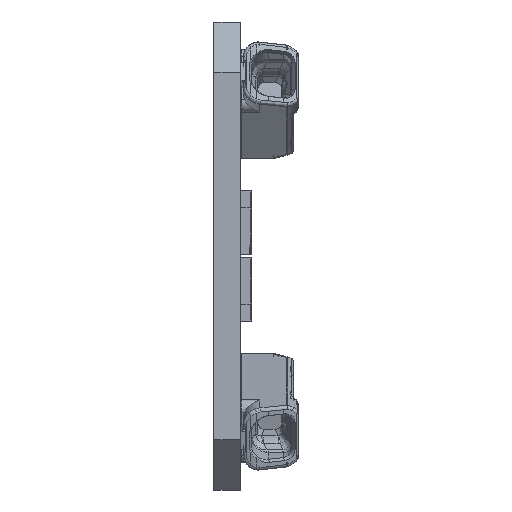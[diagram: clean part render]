
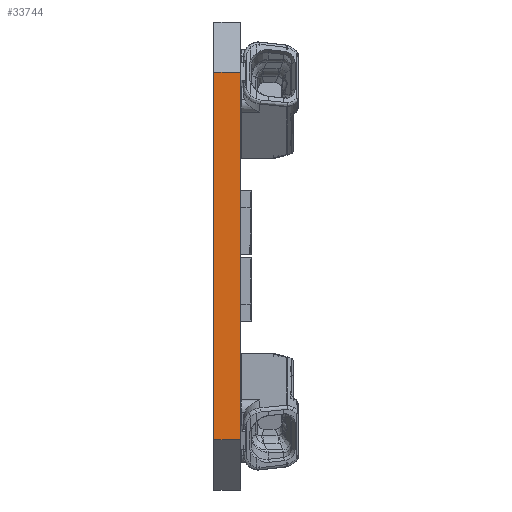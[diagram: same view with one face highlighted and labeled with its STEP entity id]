
A CAD part, left-side view. The second image highlights one B-rep face of the part: STEP entity #33744.
In plain terms, the highlighted planar face has unit normal (-1, 0, 0).
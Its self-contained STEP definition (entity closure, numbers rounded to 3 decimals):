
#2192=ORIENTED_EDGE('',*,*,#9259,.F.);
#2193=ORIENTED_EDGE('',*,*,#9381,.F.);
#2194=ORIENTED_EDGE('',*,*,#9373,.T.);
#2195=ORIENTED_EDGE('',*,*,#9380,.T.);
#9259=EDGE_CURVE('',#12887,#12888,#15191,.T.);
#9373=EDGE_CURVE('',#12986,#12985,#15265,.T.);
#9380=EDGE_CURVE('',#12985,#12888,#15272,.T.);
#9381=EDGE_CURVE('',#12986,#12887,#15273,.T.);
#12887=VERTEX_POINT('',#42893);
#12888=VERTEX_POINT('',#42895);
#12985=VERTEX_POINT('',#43126);
#12986=VERTEX_POINT('',#43128);
#15191=LINE('',#42894,#17579);
#15265=LINE('',#43127,#17653);
#15272=LINE('',#43140,#17660);
#15273=LINE('',#43142,#17661);
#17579=VECTOR('',#36978,1000.);
#17653=VECTOR('',#37174,1000.);
#17660=VECTOR('',#37189,1000.);
#17661=VECTOR('',#37192,1000.);
#19918=EDGE_LOOP('',(#2192,#2193,#2194,#2195));
#21460=FACE_BOUND('',#19918,.T.);
#22934=PLANE('',#35211);
#33744=ADVANCED_FACE('',(#21460),#22934,.T.);
#35211=AXIS2_PLACEMENT_3D('',#43141,#37190,#37191);
#36978=DIRECTION('',(0.,0.,-1.));
#37174=DIRECTION('',(0.,0.,-1.));
#37189=DIRECTION('',(0.,-1.,0.));
#37190=DIRECTION('',(-1.,0.,0.));
#37191=DIRECTION('',(0.,0.,1.));
#37192=DIRECTION('',(0.,-1.,0.));
#42893=CARTESIAN_POINT('',(-139.5,0.,11.));
#42894=CARTESIAN_POINT('',(-139.5,0.,11.));
#42895=CARTESIAN_POINT('',(-139.5,0.,-11.));
#43126=CARTESIAN_POINT('',(-139.5,1.6,-11.));
#43127=CARTESIAN_POINT('',(-139.5,1.6,11.));
#43128=CARTESIAN_POINT('',(-139.5,1.6,11.));
#43140=CARTESIAN_POINT('',(-139.5,1.6,-11.));
#43141=CARTESIAN_POINT('',(-139.5,1.6,11.));
#43142=CARTESIAN_POINT('',(-139.5,1.6,11.));
